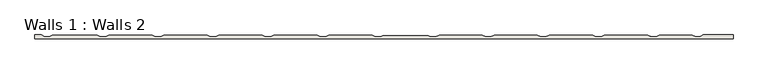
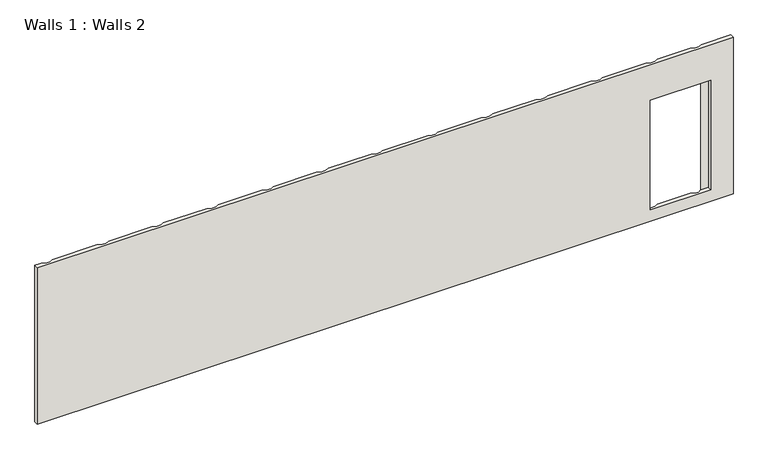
"""IFC4 building model written with IfcOpenShell, lengths in millimetres: wall geometry, Walls 1 : Walls 2."""

from ifc_helpers import new_model, si_unit, origin, place, context, project, spatial, faceted_brep, source, transform, mapped, element, save


def walls_1_walls_2_21fe8a7d(model_context):
    return source(origin(), model_context, "Body", "Brep", [
        faceted_brep([(5480.0794744, 8493.1746256, 3560.6552161), (19050.0096314, 8493.1746256, 3560.6552161), (19050.0096314, 8570.6746256, 3560.6552161), (18469.6077604, 8570.6746256, 3560.6552161), (18401.2688436, 8534.4951991, 3560.6552161), (18320.7870926, 8534.4951991, 3560.6552161), (18259.5068378, 8566.9376917, 3560.6552161), (17614.3164082, 8566.9376917, 3560.6552161), (17553.3750593, 8534.6746246, 3560.6552161), (17448.3750498, 8534.6746246, 3560.6552161), (17387.4337098, 8566.9376917, 3560.6552161), (16544.9318138, 8566.9376917, 3560.6552161), (16483.9904648, 8534.6746246, 3560.6552161), (16378.9904553, 8534.6746246, 3560.6552161), (16318.0491154, 8566.9376917, 3560.6552161), (15474.3164082, 8566.9376917, 3560.6552161), (15413.3750593, 8534.6746246, 3560.6552161), (15308.3750498, 8534.6746246, 3560.6552161), (15247.4337098, 8566.9376917, 3560.6552161), (14404.3164082, 8566.9376917, 3560.6552161), (14343.3750593, 8534.6746246, 3560.6552161), (14238.3750498, 8534.6746246, 3560.6552161), (14177.4337098, 8566.9376917, 3560.6552161), (13334.3164082, 8566.9376917, 3560.6552161), (13273.3750593, 8534.6746246, 3560.6552161), (13168.3750498, 8534.6746246, 3560.6552161), (13128.3606791, 8555.8587063, 3560.6552161), (12243.389439, 8555.8587063, 3560.6552161), (12203.3750683, 8534.6746246, 3560.6552161), (12098.3750588, 8534.6746246, 3560.6552161), (12037.4337098, 8566.9376917, 3560.6552161), (11194.3164082, 8566.9376917, 3560.6552161), (11133.3750683, 8534.6746246, 3560.6552161), (11028.3750588, 8534.6746246, 3560.6552161), (10967.4337098, 8566.9376917, 3560.6552161), (10124.3164082, 8566.9376917, 3560.6552161), (10063.3750683, 8534.6746246, 3560.6552161), (9958.3750588, 8534.6746246, 3560.6552161), (9897.4337098, 8566.9376917, 3560.6552161), (9054.3164082, 8566.9376917, 3560.6552161), (8993.3750683, 8534.6746246, 3560.6552161), (8888.3750588, 8534.6746246, 3560.6552161), (8827.4337098, 8566.9376917, 3560.6552161), (7983.7010027, 8566.9376917, 3560.6552161), (7922.7596628, 8534.6746246, 3560.6552161), (7817.7596533, 8534.6746246, 3560.6552161), (7756.8183043, 8566.9376917, 3560.6552161), (6914.3164082, 8566.9376917, 3560.6552161), (6853.3750683, 8534.6746246, 3560.6552161), (6748.3750588, 8534.6746246, 3560.6552161), (6687.4337098, 8566.9376917, 3560.6552161), (5815.3605819, 8566.9376917, 3560.6552161), (5754.0803271, 8534.4951991, 3560.6552161), (5673.5985761, 8534.4951991, 3560.6552161), (5605.2596593, 8570.6746256, 3560.6552161), (5480.0794744, 8570.6746256, 3560.6552161), (19050.0096314, 8493.1746256, 336.5252864), (5480.0794744, 8493.1746256, 336.5252864), (5480.0794744, 8570.6746256, 336.5252864), (5605.2596593, 8570.6746256, 336.5252864), (5673.5985761, 8534.4951991, 336.5252864), (5754.0803271, 8534.4951991, 336.5252864), (5815.3605819, 8566.9376917, 336.5252864), (6687.4337098, 8566.9376917, 336.5252864), (6748.3750588, 8534.6746246, 336.5252864), (6853.3750683, 8534.6746246, 336.5252864), (6914.3164082, 8566.9376917, 336.5252864), (7756.8183043, 8566.9376917, 336.5252864), (7817.7596533, 8534.6746246, 336.5252864), (7922.7596628, 8534.6746246, 336.5252864), (7983.7010027, 8566.9376917, 336.5252864), (8827.4337098, 8566.9376917, 336.5252864), (8888.3750588, 8534.6746246, 336.5252864), (8993.3750683, 8534.6746246, 336.5252864), (9054.3164082, 8566.9376917, 336.5252864), (9897.4337098, 8566.9376917, 336.5252864), (9958.3750588, 8534.6746246, 336.5252864), (10063.3750683, 8534.6746246, 336.5252864), (10124.3164082, 8566.9376917, 336.5252864), (10967.4337098, 8566.9376917, 336.5252864), (11028.3750588, 8534.6746246, 336.5252864), (11133.3750683, 8534.6746246, 336.5252864), (11194.3164082, 8566.9376917, 336.5252864), (12037.4337098, 8566.9376917, 336.5252864), (12098.3750588, 8534.6746246, 336.5252864), (12203.3750683, 8534.6746246, 336.5252864), (12243.389439, 8555.8587063, 336.5252864), (13128.3606791, 8555.8587063, 336.5252864), (13168.3750498, 8534.6746246, 336.5252864), (13273.3750593, 8534.6746246, 336.5252864), (13334.3164082, 8566.9376917, 336.5252864), (14177.4337098, 8566.9376917, 336.5252864), (14238.3750498, 8534.6746246, 336.5252864), (14343.3750593, 8534.6746246, 336.5252864), (14404.3164082, 8566.9376917, 336.5252864), (15247.4337098, 8566.9376917, 336.5252864), (15308.3750498, 8534.6746246, 336.5252864), (15413.3750593, 8534.6746246, 336.5252864), (15474.3164082, 8566.9376917, 336.5252864), (16318.0491154, 8566.9376917, 336.5252864), (16378.9904553, 8534.6746246, 336.5252864), (16483.9904648, 8534.6746246, 336.5252864), (16544.9318138, 8566.9376917, 336.5252864), (17387.4337098, 8566.9376917, 336.5252864), (17448.3750498, 8534.6746246, 336.5252864), (17553.3750593, 8534.6746246, 336.5252864), (17614.3164082, 8566.9376917, 336.5252864), (18259.5068378, 8566.9376917, 336.5252864), (18320.7870926, 8534.4951991, 336.5252864), (18401.2688436, 8534.4951991, 336.5252864), (18469.6077604, 8570.6746256, 336.5252864), (19050.0096314, 8570.6746256, 336.5252864), (18611.3164082, 8493.1746256, 2825.0000121), (18611.3164082, 8493.1746256, 571.0000121), (17436.3164082, 8493.1746256, 571.0000121), (17436.3164082, 8493.1746256, 2825.0000121), (17448.3750498, 8534.6746246, 2825.0000121), (17436.3164082, 8541.0586122, 2825.0000121), (17436.3164082, 8541.0586122, 571.0000121), (17448.3750498, 8534.6746246, 571.0000121), (17553.3750593, 8534.6746246, 2825.0000121), (17553.3750593, 8534.6746246, 571.0000121), (17614.3164082, 8566.9376917, 2825.0000121), (17614.3164082, 8566.9376917, 571.0000121), (18259.5068378, 8566.9376917, 2825.0000121), (18259.5068378, 8566.9376917, 571.0000121), (18320.7870926, 8534.4951991, 2825.0000121), (18320.7870926, 8534.4951991, 571.0000121), (18401.2688436, 8534.4951991, 2825.0000121), (18401.2688436, 8534.4951991, 571.0000121), (18468.1223169, 8569.8882143, 571.0000121), (18468.1223169, 8569.8882143, 2825.0000121), (18611.3164082, 8569.8882143, 571.0000121), (18611.3164082, 8569.8882143, 2825.0000121)], [[[0, 1, 2, 3, 4, 5, 6, 7, 8, 9, 10, 11, 12, 13, 14, 15, 16, 17, 18, 19, 20, 21, 22, 23, 24, 25, 26, 27, 28, 29, 30, 31, 32, 33, 34, 35, 36, 37, 38, 39, 40, 41, 42, 43, 44, 45, 46, 47, 48, 49, 50, 51, 52, 53, 54, 55]], [[56, 57, 58, 59, 60, 61, 62, 63, 64, 65, 66, 67, 68, 69, 70, 71, 72, 73, 74, 75, 76, 77, 78, 79, 80, 81, 82, 83, 84, 85, 86, 87, 88, 89, 90, 91, 92, 93, 94, 95, 96, 97, 98, 99, 100, 101, 102, 103, 104, 105, 106, 107, 108, 109, 110, 111]], [[57, 56, 1, 0], [112, 113, 114, 115]], [[58, 57, 0, 55]], [[2, 1, 56, 111]], [[54, 53, 60, 59]], [[53, 52, 61, 60]], [[52, 51, 62, 61]], [[51, 50, 63, 62]], [[50, 49, 64, 63]], [[49, 48, 65, 64]], [[48, 47, 66, 65]], [[55, 54, 59, 58]], [[47, 46, 67, 66]], [[46, 45, 68, 67]], [[45, 44, 69, 68]], [[44, 43, 70, 69]], [[43, 42, 71, 70]], [[42, 41, 72, 71]], [[41, 40, 73, 72]], [[40, 39, 74, 73]], [[39, 38, 75, 74]], [[38, 37, 76, 75]], [[37, 36, 77, 76]], [[36, 35, 78, 77]], [[35, 34, 79, 78]], [[30, 29, 84, 83]], [[29, 28, 85, 84]], [[28, 27, 86, 85]], [[23, 22, 91, 90]], [[22, 21, 92, 91]], [[21, 20, 93, 92]], [[20, 19, 94, 93]], [[19, 18, 95, 94]], [[18, 17, 96, 95]], [[17, 16, 97, 96]], [[16, 15, 98, 97]], [[15, 14, 99, 98]], [[14, 13, 100, 99]], [[13, 12, 101, 100]], [[12, 11, 102, 101]], [[11, 10, 103, 102]], [[10, 9, 116, 117, 118, 119, 104, 103]], [[9, 8, 120, 116]], [[105, 104, 119, 121]], [[8, 7, 122, 120]], [[106, 105, 121, 123]], [[7, 6, 124, 122]], [[107, 106, 123, 125]], [[6, 5, 126, 124]], [[108, 107, 125, 127]], [[5, 4, 128, 126]], [[109, 108, 127, 129]], [[4, 3, 110, 109, 129, 130, 131, 128]], [[3, 2, 111, 110]], [[34, 33, 80, 79]], [[33, 32, 81, 80]], [[32, 31, 82, 81]], [[31, 30, 83, 82]], [[27, 26, 87, 86]], [[26, 25, 88, 87]], [[25, 24, 89, 88]], [[24, 23, 90, 89]], [[132, 133, 131, 130]], [[133, 132, 113, 112]], [[131, 133, 112, 115, 117, 116, 120, 122, 124, 126, 128]], [[117, 115, 114, 118]], [[132, 130, 129, 127, 125, 123, 121, 119, 118, 114, 113]]]),
    ])


if __name__ == "__main__":
    model = new_model("IFC4")
    model_context = context("Model", 3, world=origin())
    ifc_project = project(units=[si_unit("LENGTHUNIT", "METRE", prefix="MILLI")], contexts=[model_context])
    site = spatial("IfcSite", under=ifc_project)
    building = spatial("IfcBuilding", under=site)
    placement = place(None, origin())
    walls_1_walls_2_shape = walls_1_walls_2_21fe8a7d(model_context)
    element("IfcWall", 1, ObjectType="Walls 1 : Walls 2", at=placement, inside=building, context=model_context, shape_type="MappedRepresentation", body=[
        mapped(walls_1_walls_2_shape, transform((0.0, 0.0, 0.0), x_axis=(1.0, 0.0, 0.0), y_axis=(0.0, 1.0, 0.0), z_axis=(0.0, 0.0, 1.0))),
    ])
    save(model, "model.ifc")
